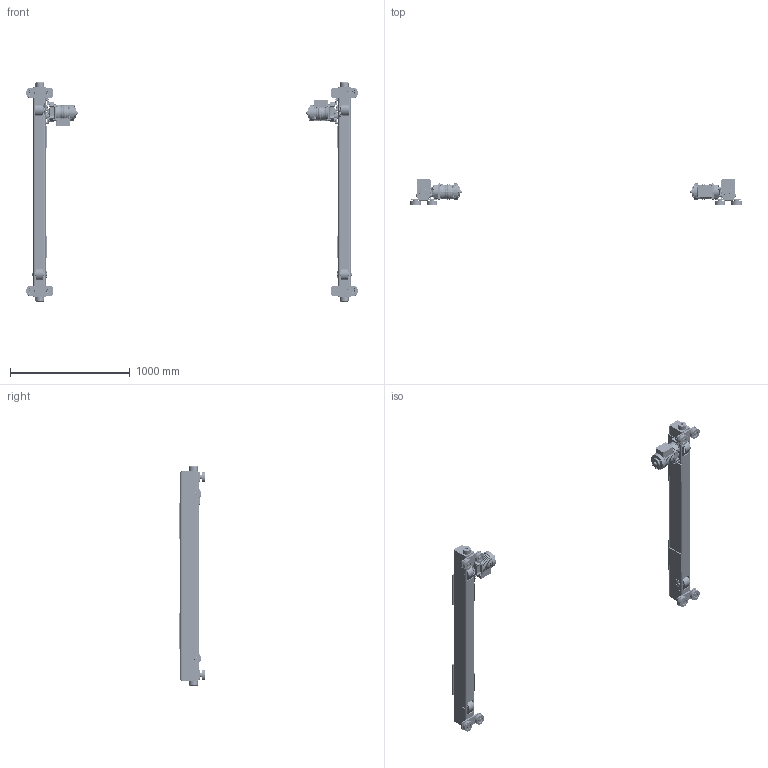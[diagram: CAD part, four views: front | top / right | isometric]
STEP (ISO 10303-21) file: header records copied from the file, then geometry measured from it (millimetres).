
FILE_DESCRIPTION (( 'STEP AP214' ), '1' );
FILE_NAME ('MTMS-3-0135.STEP', '2026-08-14T12:48:51', ( '' ), ( '' ), 'SwSTEP 2.0', 'SolidWorks 2026', '' );
FILE_SCHEMA (( 'AUTOMOTIVE_DESIGN' ));
Length unit declared in the file: millimetre
Products named in the file (62): 6240802; G1JM025S_ROTATED 180 DEGREES; G1JE025S9603; 6240814; MTMS-3-0135; G1JE025S9401; N6QO310E91012; 9000705; 6240823; 6240822; T7G117010; 9093330_9093330; 6240825; N6QO3101101; 6232305; G1JE025S9610; G1JE025S9303; 6241703; 62418_6241801; 62417_6241701; 9012709_Rectangular section spring washer BS 4464 - 16 (Type B); N6QO3101108_N6QO3101108; 6240803; G1JM025S_NORMAL; 9093101_9093101; G1JE025S9301; 62415_6241501; 9000605; 9047125_B27.7M - 3AM1-23; MTMX-3-0135_MTMX-0160; 62415 - TUBE_68.125; N6QO310E9108_N6QO3101108 DOMESTIC; 9091273_9091273; MS555010_MS555010; 6240826; G1JE025S9604; 62419 RIGHT HAND ASSY_6241902; N6Q0310E9102_Domestic; 6240805X_6240805A; G1JE025S9707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
Assembly tree (195 placements, depth 6):
  MTMS-3-0135
    MTMX-3-0135_MTMX-0160
      62419 LEFT HAND ASSY_6241901
        62417_6241701
          62415_6241501
            62415 - TUBE_68.125
            6240822
            6240823
            6240823
          6241703  x2
          6240806  x2
          T7G117010
          6240802
          6240803
          6240804
          6240817X_6240817A  x2
            6240805X_6240805A
            6232305
        N6QL210207  x2
        N6QO3101108_N6QO3101108  x4
          N6QO310E9108_N6QO3101108 DOMESTIC
          9047252_9047252
          9000605
        9047125_B27.7M - 3AM1-23  x4
        9093101_9093101  x2
        9012514_9012514  x2
        9012711_9012711  x5
        6240825
        6240826
        9093327_9093327  x3
        6240814  x2
        N6QO3101102
          N6Q0310E9102_Domestic
          9000705  x2
        N6QO3101101
          N6QO310E91012
          9000705  x2
      62419 RIGHT HAND ASSY_6241902
        62418_6241801
          62416_6241601
            62415 - TUBE_68.125
            6240822
            6240823
            6240823
          T7G117010
          6240802
          6240803
          6240804
          6240817X_6240817A  x2
            6240805X_6240805A
            6232305
          6240806  x2
          6241703  x2
        N6QL210207  x2
        9012711_9012711  x5
        9012514_9012514  x2
        9093101_9093101  x2
        N6QO3101108_N6QO3101108  x4
          N6QO310E9108_N6QO3101108 DOMESTIC
          9047252_9047252
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Bounding box: 2767.58 x 210.99 x 1827.42 mm (x, y, z)
Volume: 22620969.1 mm3; surface area: 6041478.3 mm2
Topology: 198 solids, 262 shells, 14999 faces, 38856 edges, 24994 vertices
Faces by surface type: plane 8203, cylinder 3378, bspline 1802, torus 788, cone 654, sphere 174
Entity records: 162649 total; most frequent: CARTESIAN_POINT 67587, ORIENTED_EDGE 20072, DIRECTION 18530, EDGE_CURVE 10040, AXIS2_PLACEMENT_3D 7085, VERTEX_POINT 6394, EDGE_LOOP 4406, VECTOR 4360
